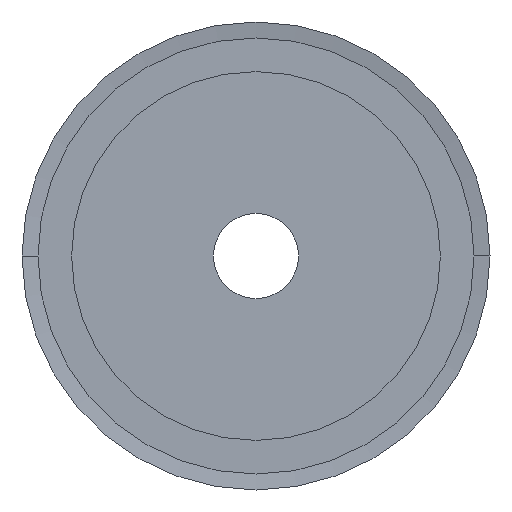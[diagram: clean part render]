
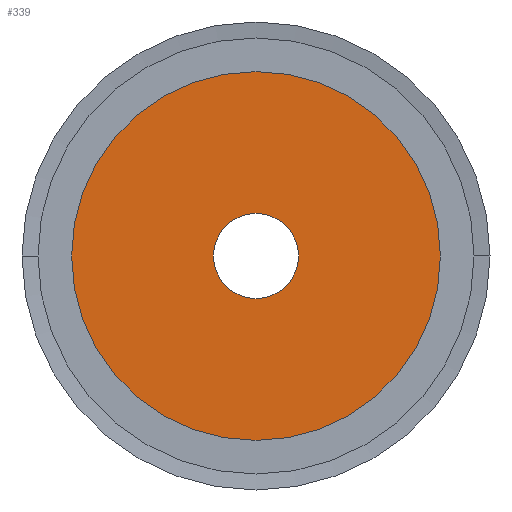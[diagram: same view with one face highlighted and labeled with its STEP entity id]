
A CAD part, left-side view. The second image highlights one B-rep face of the part: STEP entity #339.
In plain terms, the highlighted planar face has unit normal (-1, 0, 0).
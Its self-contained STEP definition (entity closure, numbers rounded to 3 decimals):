
#339 = ADVANCED_FACE( '', ( #873, #874 ), #875, .T. );
#873 = FACE_BOUND( '', #1408, .T. );
#874 = FACE_OUTER_BOUND( '', #1409, .T. );
#875 = PLANE( '', #1410 );
#1408 = EDGE_LOOP( '', ( #3583, #3584 ) );
#1409 = EDGE_LOOP( '', ( #3585, #3586 ) );
#1410 = AXIS2_PLACEMENT_3D( '', #3587, #3588, #3589 );
#3583 = ORIENTED_EDGE( '', *, *, #4276, .F. );
#3584 = ORIENTED_EDGE( '', *, *, #3605, .F. );
#3585 = ORIENTED_EDGE( '', *, *, #3593, .T. );
#3586 = ORIENTED_EDGE( '', *, *, #4281, .T. );
#3587 = CARTESIAN_POINT( '', ( 0., 16., 0. ) );
#3588 = DIRECTION( '', ( -1., 0., 0. ) );
#3589 = DIRECTION( '', ( 0., 1., 0. ) );
#3593 = EDGE_CURVE( '', #4283, #4287, #4289, .T. );
#3605 = EDGE_CURVE( '', #4311, #4307, #4313, .T. );
#4276 = EDGE_CURVE( '', #4307, #4311, #5400, .T. );
#4281 = EDGE_CURVE( '', #4287, #4283, #5405, .T. );
#4283 = VERTEX_POINT( '', #5407 );
#4287 = VERTEX_POINT( '', #5412 );
#4289 = CIRCLE( '', #5415, 26. );
#4307 = VERTEX_POINT( '', #5437 );
#4311 = VERTEX_POINT( '', #5442 );
#4313 = CIRCLE( '', #5445, 6. );
#5400 = CIRCLE( '', #6824, 6. );
#5405 = CIRCLE( '', #6829, 26. );
#5407 = CARTESIAN_POINT( '', ( 0., 26., 0. ) );
#5412 = CARTESIAN_POINT( '', ( 0., -26., 0. ) );
#5415 = AXIS2_PLACEMENT_3D( '', #6835, #6836, #6837 );
#5437 = CARTESIAN_POINT( '', ( 0., 6., 0. ) );
#5442 = CARTESIAN_POINT( '', ( 0., -6., 0. ) );
#5445 = AXIS2_PLACEMENT_3D( '', #6859, #6860, #6861 );
#6824 = AXIS2_PLACEMENT_3D( '', #8288, #8289, #8290 );
#6829 = AXIS2_PLACEMENT_3D( '', #8303, #8304, #8305 );
#6835 = CARTESIAN_POINT( '', ( 0., 0., 0. ) );
#6836 = DIRECTION( '', ( -1., 0., 0. ) );
#6837 = DIRECTION( '', ( 0., 1., 0. ) );
#6859 = CARTESIAN_POINT( '', ( 0., 0., 0. ) );
#6860 = DIRECTION( '', ( -1., 0., 0. ) );
#6861 = DIRECTION( '', ( 0., 1., 0. ) );
#8288 = CARTESIAN_POINT( '', ( 0., 0., 0. ) );
#8289 = DIRECTION( '', ( -1., 0., 0. ) );
#8290 = DIRECTION( '', ( 0., 1., 0. ) );
#8303 = CARTESIAN_POINT( '', ( 0., 0., 0. ) );
#8304 = DIRECTION( '', ( -1., 0., 0. ) );
#8305 = DIRECTION( '', ( 0., 1., 0. ) );
